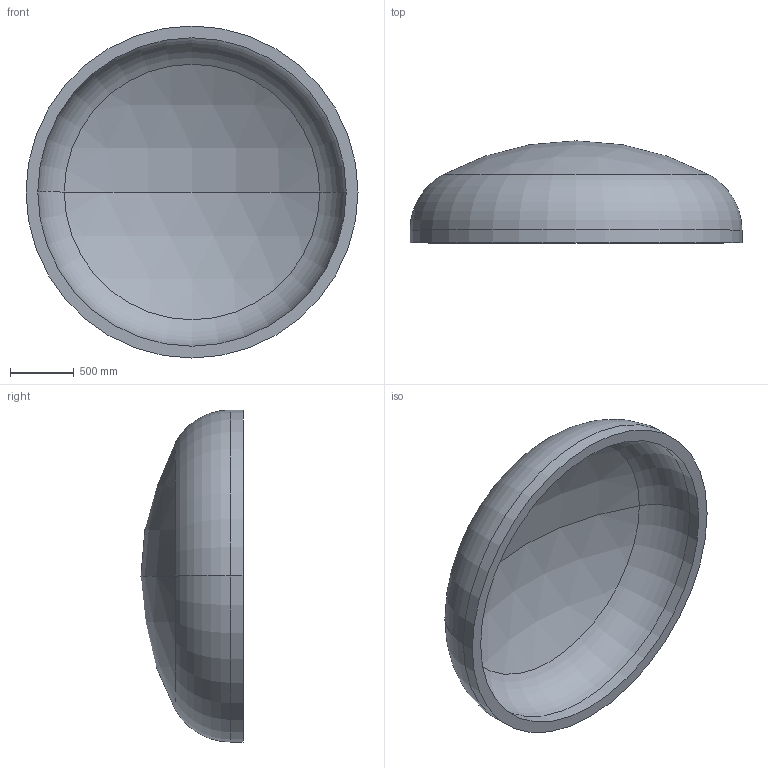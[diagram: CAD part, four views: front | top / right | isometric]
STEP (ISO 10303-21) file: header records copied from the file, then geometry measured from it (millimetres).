
FILE_DESCRIPTION (( 'STEP AP203' ), '1' );
FILE_NAME ('DIN 28013 Korbbogenform_-_Boden DIN 28013 - 2600 x 100 - I - s=92.step', '2016-07-01T16:29:03', ( '' ), ( '' ), 'SwSTEP 2.0', 'SolidWorks 2013', '' );
FILE_SCHEMA (( 'CONFIG_CONTROL_DESIGN' ));
Length unit declared in the file: millimetre
Products named in the file (1): DIN 28013 Korbbogenform_-_Boden DIN 28013 - 2600 x 100 - I - s=92
Bounding box: 2600 x 799.07 x 2600 mm (x, y, z)
Volume: 718431392.7 mm3; surface area: 16360674.4 mm2
Topology: 1 solids, 1 shells, 13 faces, 24 edges, 14 vertices
Faces by surface type: torus 4, cylinder 4, sphere 4, plane 1
Entity records: 407 total; most frequent: DIRECTION 72, CARTESIAN_POINT 52, ORIENTED_EDGE 48, AXIS2_PLACEMENT_3D 34, EDGE_CURVE 24, CIRCLE 20, EDGE_LOOP 14, VERTEX_POINT 14
